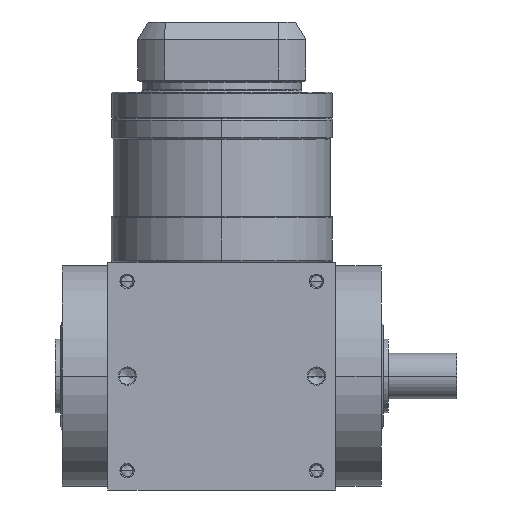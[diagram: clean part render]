
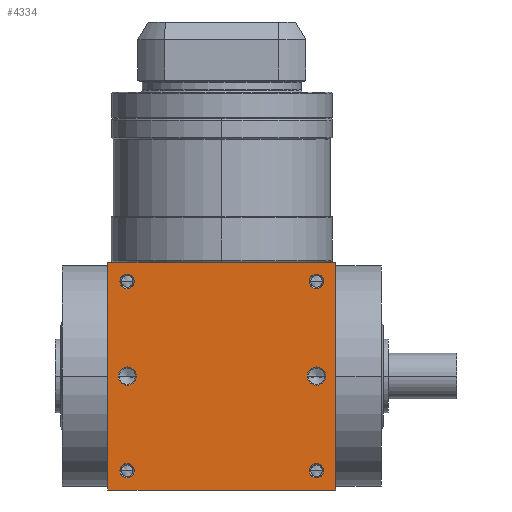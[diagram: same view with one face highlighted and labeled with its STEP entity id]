
A CAD part, front view. The second image highlights one B-rep face of the part: STEP entity #4334.
In plain terms, the highlighted planar face has unit normal (0, -1, 0).
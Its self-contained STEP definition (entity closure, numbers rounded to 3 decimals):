
#5=DIRECTION('',(1.,0.,0.));
#6=VECTOR('',#5,65.);
#7=CARTESIAN_POINT('',(-32.5,-32.5,-32.5));
#8=LINE('',#7,#6);
#155=DIRECTION('',(0.,0.,1.));
#156=VECTOR('',#155,65.);
#157=CARTESIAN_POINT('',(32.5,-32.5,-32.5));
#158=LINE('',#157,#156);
#209=DIRECTION('',(0.,0.,1.));
#210=VECTOR('',#209,65.);
#211=CARTESIAN_POINT('',(-32.5,-32.5,-32.5));
#212=LINE('',#211,#210);
#213=CARTESIAN_POINT('',(27.,-32.5,27.));
#214=DIRECTION('',(0.,1.,0.));
#215=DIRECTION('',(-1.,0.,0.));
#216=AXIS2_PLACEMENT_3D('',#213,#214,#215);
#218=CARTESIAN_POINT('',(27.,-32.5,27.));
#219=DIRECTION('',(0.,1.,0.));
#220=DIRECTION('',(1.,0.,0.));
#221=AXIS2_PLACEMENT_3D('',#218,#219,#220);
#223=CARTESIAN_POINT('',(-27.,-32.5,27.));
#224=DIRECTION('',(0.,1.,0.));
#225=DIRECTION('',(-1.,0.,0.));
#226=AXIS2_PLACEMENT_3D('',#223,#224,#225);
#228=CARTESIAN_POINT('',(-27.,-32.5,27.));
#229=DIRECTION('',(0.,1.,0.));
#230=DIRECTION('',(1.,0.,0.));
#231=AXIS2_PLACEMENT_3D('',#228,#229,#230);
#233=CARTESIAN_POINT('',(27.,-32.5,-27.));
#234=DIRECTION('',(0.,1.,0.));
#235=DIRECTION('',(-1.,0.,0.));
#236=AXIS2_PLACEMENT_3D('',#233,#234,#235);
#238=CARTESIAN_POINT('',(27.,-32.5,-27.));
#239=DIRECTION('',(0.,1.,0.));
#240=DIRECTION('',(1.,0.,0.));
#241=AXIS2_PLACEMENT_3D('',#238,#239,#240);
#243=CARTESIAN_POINT('',(-27.,-32.5,-27.));
#244=DIRECTION('',(0.,1.,0.));
#245=DIRECTION('',(-1.,0.,0.));
#246=AXIS2_PLACEMENT_3D('',#243,#244,#245);
#248=CARTESIAN_POINT('',(-27.,-32.5,-27.));
#249=DIRECTION('',(0.,1.,0.));
#250=DIRECTION('',(1.,0.,0.));
#251=AXIS2_PLACEMENT_3D('',#248,#249,#250);
#253=CARTESIAN_POINT('',(-27.,-32.5,0.));
#254=DIRECTION('',(0.,1.,0.));
#255=DIRECTION('',(1.,0.,0.));
#256=AXIS2_PLACEMENT_3D('',#253,#254,#255);
#258=CARTESIAN_POINT('',(-27.,-32.5,0.));
#259=DIRECTION('',(0.,1.,0.));
#260=DIRECTION('',(-1.,0.,0.));
#261=AXIS2_PLACEMENT_3D('',#258,#259,#260);
#263=CARTESIAN_POINT('',(27.,-32.5,0.));
#264=DIRECTION('',(0.,1.,0.));
#265=DIRECTION('',(1.,0.,0.));
#266=AXIS2_PLACEMENT_3D('',#263,#264,#265);
#268=CARTESIAN_POINT('',(27.,-32.5,0.));
#269=DIRECTION('',(0.,1.,0.));
#270=DIRECTION('',(-1.,0.,0.));
#271=AXIS2_PLACEMENT_3D('',#268,#269,#270);
#285=DIRECTION('',(1.,0.,0.));
#286=VECTOR('',#285,65.);
#287=CARTESIAN_POINT('',(-32.5,-32.5,32.5));
#288=LINE('',#287,#286);
#3452=CARTESIAN_POINT('',(-32.5,-32.5,-32.5));
#3454=VERTEX_POINT('',#3452);
#3455=CARTESIAN_POINT('',(32.5,-32.5,-32.5));
#3456=VERTEX_POINT('',#3455);
#3460=CARTESIAN_POINT('',(-32.5,-32.5,32.5));
#3462=VERTEX_POINT('',#3460);
#3463=CARTESIAN_POINT('',(32.5,-32.5,32.5));
#3464=VERTEX_POINT('',#3463);
#3635=CARTESIAN_POINT('',(24.95,-32.5,27.));
#3636=CARTESIAN_POINT('',(29.05,-32.5,27.));
#3637=VERTEX_POINT('',#3635);
#3638=VERTEX_POINT('',#3636);
#3643=CARTESIAN_POINT('',(-29.05,-32.5,27.));
#3644=CARTESIAN_POINT('',(-24.95,-32.5,27.));
#3645=VERTEX_POINT('',#3643);
#3646=VERTEX_POINT('',#3644);
#3651=CARTESIAN_POINT('',(24.95,-32.5,-27.));
#3652=CARTESIAN_POINT('',(29.05,-32.5,-27.));
#3653=VERTEX_POINT('',#3651);
#3654=VERTEX_POINT('',#3652);
#3659=CARTESIAN_POINT('',(-29.05,-32.5,-27.));
#3660=CARTESIAN_POINT('',(-24.95,-32.5,-27.));
#3661=VERTEX_POINT('',#3659);
#3662=VERTEX_POINT('',#3660);
#3983=CARTESIAN_POINT('',(-24.4,-32.5,0.));
#3984=CARTESIAN_POINT('',(-29.6,-32.5,0.));
#3985=VERTEX_POINT('',#3983);
#3986=VERTEX_POINT('',#3984);
#3991=CARTESIAN_POINT('',(29.6,-32.5,0.));
#3992=CARTESIAN_POINT('',(24.4,-32.5,0.));
#3993=VERTEX_POINT('',#3991);
#3994=VERTEX_POINT('',#3992);
#4286=CARTESIAN_POINT('',(-32.5,-32.5,-32.5));
#4287=DIRECTION('',(0.,-1.,0.));
#4288=DIRECTION('',(1.,0.,0.));
#4289=AXIS2_PLACEMENT_3D('',#4286,#4287,#4288);
#4290=PLANE('',#4289);
#4291=ORIENTED_EDGE('',*,*,#4126,.F.);
#4292=ORIENTED_EDGE('',*,*,#4169,.T.);
#4294=ORIENTED_EDGE('',*,*,#4293,.T.);
#4295=ORIENTED_EDGE('',*,*,#4248,.F.);
#4296=EDGE_LOOP('',(#4291,#4292,#4294,#4295));
#4297=FACE_OUTER_BOUND('',#4296,.F.);
#4299=ORIENTED_EDGE('',*,*,#4298,.F.);
#4301=ORIENTED_EDGE('',*,*,#4300,.F.);
#4302=EDGE_LOOP('',(#4299,#4301));
#4303=FACE_BOUND('',#4302,.F.);
#4305=ORIENTED_EDGE('',*,*,#4304,.F.);
#4307=ORIENTED_EDGE('',*,*,#4306,.F.);
#4308=EDGE_LOOP('',(#4305,#4307));
#4309=FACE_BOUND('',#4308,.F.);
#4311=ORIENTED_EDGE('',*,*,#4310,.F.);
#4313=ORIENTED_EDGE('',*,*,#4312,.F.);
#4314=EDGE_LOOP('',(#4311,#4313));
#4315=FACE_BOUND('',#4314,.F.);
#4317=ORIENTED_EDGE('',*,*,#4316,.F.);
#4319=ORIENTED_EDGE('',*,*,#4318,.F.);
#4320=EDGE_LOOP('',(#4317,#4319));
#4321=FACE_BOUND('',#4320,.F.);
#4323=ORIENTED_EDGE('',*,*,#4322,.F.);
#4325=ORIENTED_EDGE('',*,*,#4324,.F.);
#4326=EDGE_LOOP('',(#4323,#4325));
#4327=FACE_BOUND('',#4326,.F.);
#4329=ORIENTED_EDGE('',*,*,#4328,.F.);
#4331=ORIENTED_EDGE('',*,*,#4330,.F.);
#4332=EDGE_LOOP('',(#4329,#4331));
#4333=FACE_BOUND('',#4332,.F.);
#4334=ADVANCED_FACE('',(#4297,#4303,#4309,#4315,#4321,#4327,#4333),#4290,.T.);
#217=CIRCLE('',#216,2.05);
#222=CIRCLE('',#221,2.05);
#227=CIRCLE('',#226,2.05);
#232=CIRCLE('',#231,2.05);
#237=CIRCLE('',#236,2.05);
#242=CIRCLE('',#241,2.05);
#247=CIRCLE('',#246,2.05);
#252=CIRCLE('',#251,2.05);
#257=CIRCLE('',#256,2.6);
#262=CIRCLE('',#261,2.6);
#267=CIRCLE('',#266,2.6);
#272=CIRCLE('',#271,2.6);
#4126=EDGE_CURVE('',#3454,#3456,#8,.T.);
#4169=EDGE_CURVE('',#3454,#3462,#212,.T.);
#4248=EDGE_CURVE('',#3456,#3464,#158,.T.);
#4293=EDGE_CURVE('',#3462,#3464,#288,.T.);
#4298=EDGE_CURVE('',#3637,#3638,#217,.T.);
#4300=EDGE_CURVE('',#3638,#3637,#222,.T.);
#4304=EDGE_CURVE('',#3645,#3646,#227,.T.);
#4306=EDGE_CURVE('',#3646,#3645,#232,.T.);
#4310=EDGE_CURVE('',#3653,#3654,#237,.T.);
#4312=EDGE_CURVE('',#3654,#3653,#242,.T.);
#4316=EDGE_CURVE('',#3661,#3662,#247,.T.);
#4318=EDGE_CURVE('',#3662,#3661,#252,.T.);
#4322=EDGE_CURVE('',#3985,#3986,#257,.T.);
#4324=EDGE_CURVE('',#3986,#3985,#262,.T.);
#4328=EDGE_CURVE('',#3993,#3994,#267,.T.);
#4330=EDGE_CURVE('',#3994,#3993,#272,.T.);
